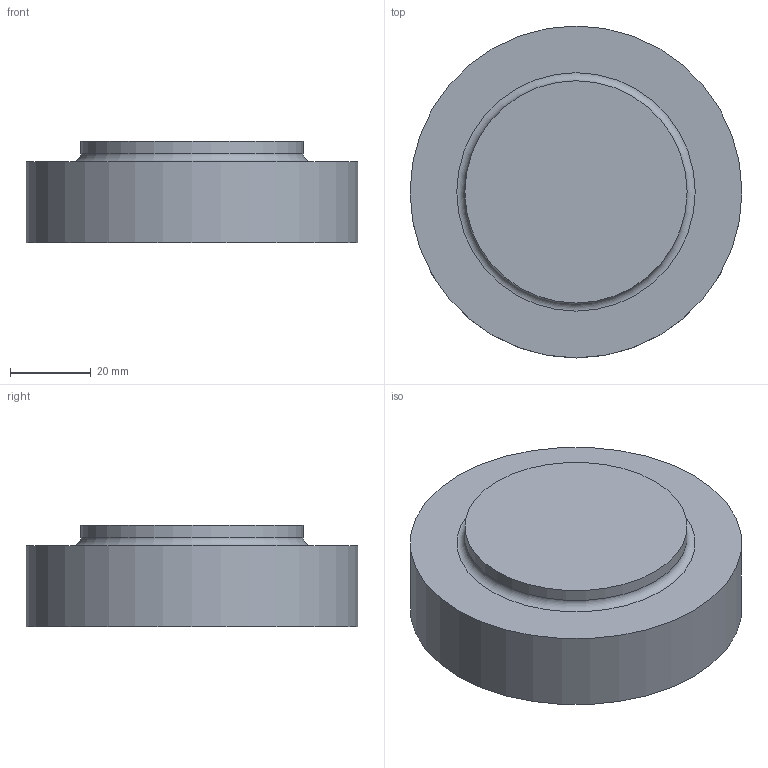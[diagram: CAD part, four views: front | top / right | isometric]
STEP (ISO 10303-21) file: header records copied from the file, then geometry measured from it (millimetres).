
FILE_DESCRIPTION(('Minimized false-sense face closed-edge regression'),'2;1');
FILE_NAME('ap203_false_face_closed_edge_use.stp','2026-07-24T00:00:00',('BRL-CAD'),('BRL-CAD'),'BRL-CAD','BRL-CAD','');
FILE_SCHEMA(('CONFIG_CONTROL_DESIGN'));
Length unit declared in the file: millimetre
Products named in the file (1): false_face_closed_edge
Bounding box: 82.12 x 82.12 x 25 mm (x, y, z)
Volume: 117972.5 mm3; surface area: 16471.7 mm2
Topology: 1 solids, 1 shells, 6 faces, 8 edges, 5 vertices
Faces by surface type: plane 3, cylinder 2, torus 1
Full cylindrical faces by diameter (mm): 55 x1, 82.125 x1
Entity records: 137 total; most frequent: DIRECTION 26, CARTESIAN_POINT 19, ORIENTED_EDGE 16, AXIS2_PLACEMENT_3D 12, EDGE_CURVE 8, EDGE_LOOP 7, FACE_OUTER_BOUND 6, CIRCLE 6
